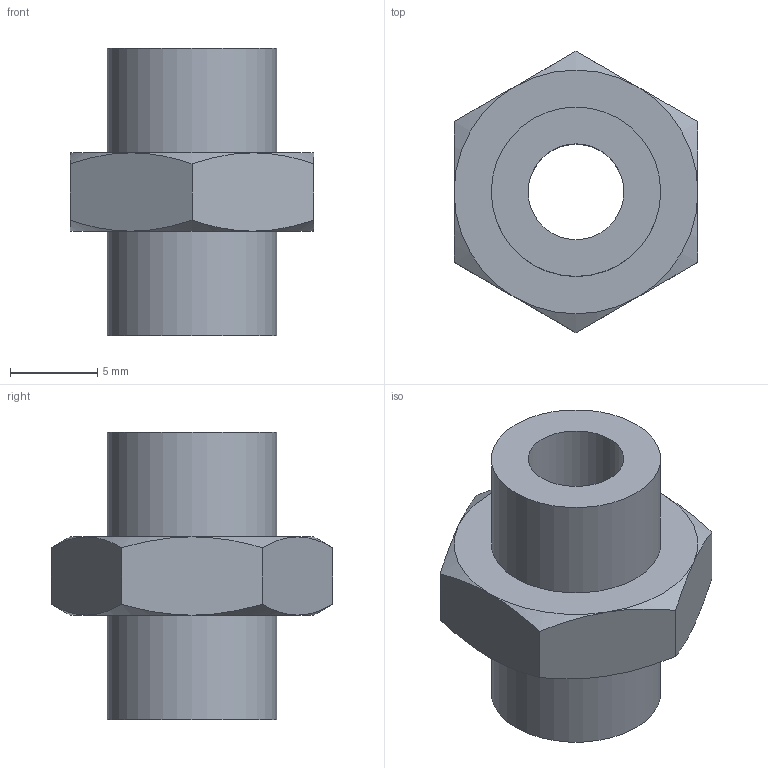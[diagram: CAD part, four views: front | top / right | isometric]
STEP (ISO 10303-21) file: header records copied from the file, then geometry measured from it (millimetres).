
FILE_DESCRIPTION(/* description */ (''),/* implementation_level */ '2;1');
FILE_NAME(/* name */ 'C:\PNX_VAULTFOLDER\Area Tecnica\Disegni\VARIE-3D\Componenti\raccordi\101####\1011818.stp',/* time_stamp */ '2019-09-13T10:22:52+02:00',/* author */ ('maniean1'),/* organization */ ('Pneumax S.p.A.'),/* preprocessor_version */ 'ST-DEVELOPER v17',/* originating_system */ 'Autodesk Inventor 2019',/* authorisation */ '');
FILE_SCHEMA (('AUTOMOTIVE_DESIGN { 1 0 10303 214 3 1 1 }'));
Length unit declared in the file: millimetre
Products named in the file (1): 1011818
Bounding box: 14 x 16.17 x 16.5 mm (x, y, z)
Volume: 1257.8 mm3; surface area: 1146.1 mm2
Topology: 1 solids, 1 shells, 25 faces, 56 edges, 35 vertices
Faces by surface type: cone 12, plane 10, cylinder 3
Full cylindrical faces by diameter (mm): 5.5 x1, 9.728 x2
Entity records: 741 total; most frequent: CARTESIAN_POINT 165, ORIENTED_EDGE 112, DIRECTION 107, EDGE_CURVE 56, AXIS2_PLACEMENT_3D 49, VERTEX_POINT 35, EDGE_LOOP 29, STYLED_ITEM 26
